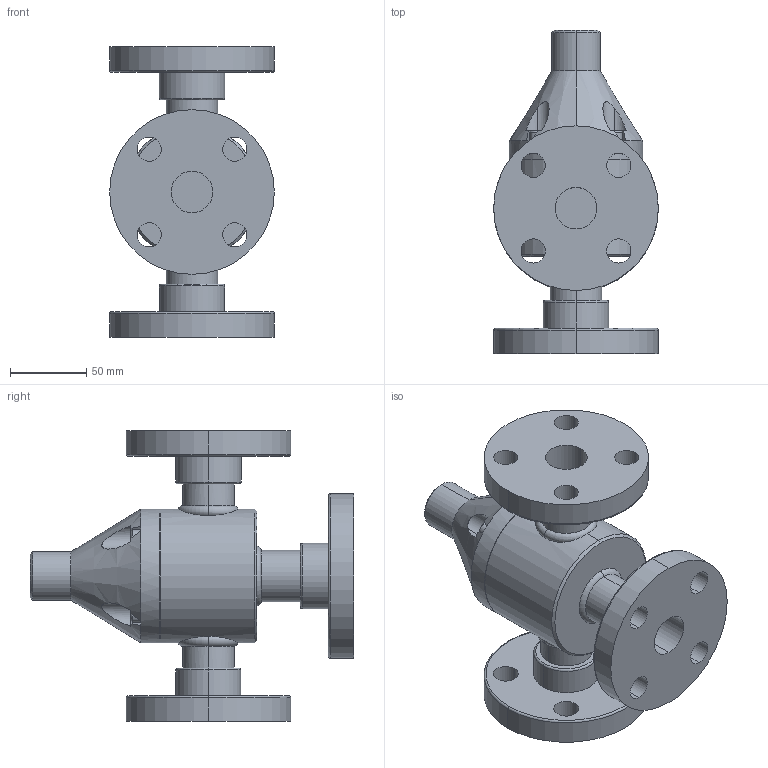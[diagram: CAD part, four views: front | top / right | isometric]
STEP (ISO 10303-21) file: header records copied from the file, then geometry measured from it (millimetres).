
FILE_DESCRIPTION (( 'STEP AP203' ), '1' );
FILE_NAME ('GPR1000-FLNG.STEP', '2016-02-12T10:16:51', ( '' ), ( '' ), 'SwSTEP 2.0', 'SolidWorks 2014', '' );
FILE_SCHEMA (( 'CONFIG_CONTROL_DESIGN' ));
Length unit declared in the file: inch
Products named in the file (2): GPR1000-FLNG
Bounding box: 108.09 x 212.09 x 190.5 mm (x, y, z)
Volume: 1135577.5 mm3; surface area: 138533.6 mm2
Topology: 1 solids, 1 shells, 188 faces, 452 edges, 288 vertices
Faces by surface type: plane 80, cylinder 70, cone 20, torus 18
Entity records: 6339 total; most frequent: CARTESIAN_POINT 1628, DIRECTION 1002, ORIENTED_EDGE 904, EDGE_CURVE 452, AXIS2_PLACEMENT_3D 390, VERTEX_POINT 288, EDGE_LOOP 234, LINE 222
